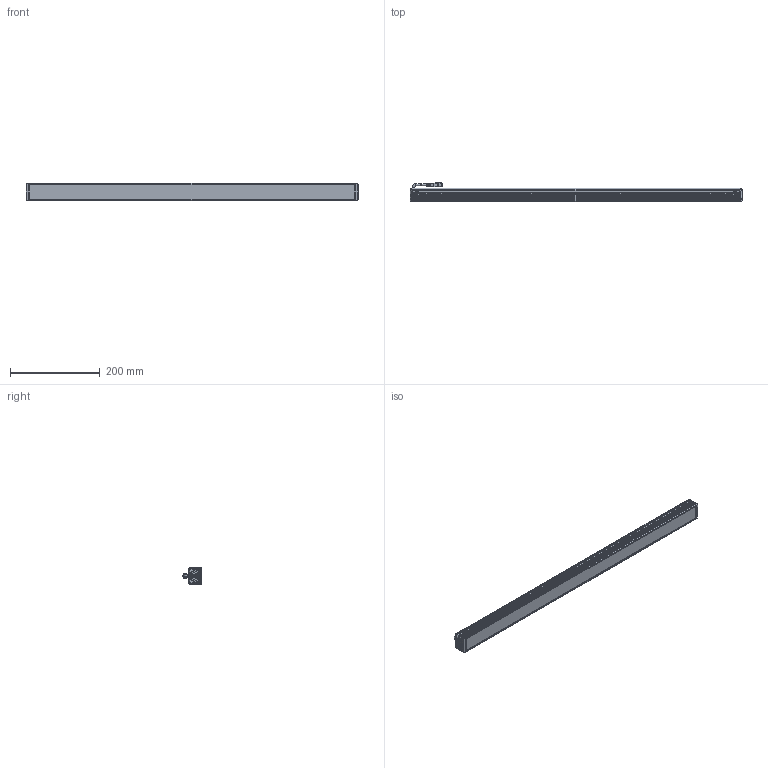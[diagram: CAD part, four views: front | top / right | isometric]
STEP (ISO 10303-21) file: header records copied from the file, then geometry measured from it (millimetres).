
FILE_DESCRIPTION((''),'2;1');
FILE_NAME('MV-LLDS-H-800-40-W-PL_ASM','2024-04-08T14:32:10',('huguozhe'),(''),'CREO PARAMETRIC BY PTC INC, 2020044','CREO PARAMETRIC BY PTC INC, 2020044','');
FILE_SCHEMA(('AUTOMOTIVE_DESIGN { 1 0 10303 214 1 1 1 1 }'));
Length unit declared in the file: millimetre
Products named in the file (15): DE-15-001241; DE-15-001240_ASM; DE-15-000524; DE-15-000523_ASM; DE-12-002350; TIP-M3X4-4_5X5-SO-ET-07061033; DE-12-002350_ASM; DE-12-001614; SC-KM2X6-BNI-GB819; XIANLAN_HEAD; CABLE_HEAD; CABLE_HEAD_ASM_ASM; 190100852; SC-PM2X6B-JMP; MV-LLDS-H-800-40-W-PL_ASM
Assembly tree (34 placements, depth 3):
  MV-LLDS-H-800-40-W-PL_ASM
    DE-15-001240_ASM
      DE-15-001241
    DE-15-000523_ASM
      DE-15-000524
    DE-12-002350_ASM  x2
      DE-12-002350
      TIP-M3X4-4_5X5-SO-ET-07061033
    DE-12-001614
    SC-KM2X6-BNI-GB819  x5
    CABLE_HEAD_ASM_ASM
      XIANLAN_HEAD
      CABLE_HEAD
    190100852  x8
    SC-PM2X6B-JMP  x8
Bounding box: 738 x 42.65 x 40 mm (x, y, z)
Volume: 685640.6 mm3; surface area: 345706 mm2
Topology: 32 solids, 70 shells, 2880 faces, 7430 edges, 4677 vertices
Faces by surface type: plane 1394, cylinder 605, bspline 472, cone 348, torus 52, sphere 8, extrusion 1
Entity records: 49366 total; most frequent: CARTESIAN_POINT 11468, ORIENTED_EDGE 6378, DIRECTION 6167, EDGE_CURVE 3223, VERTEX_POINT 2067, AXIS2_PLACEMENT_3D 2058, VECTOR 2051, LINE 2050
